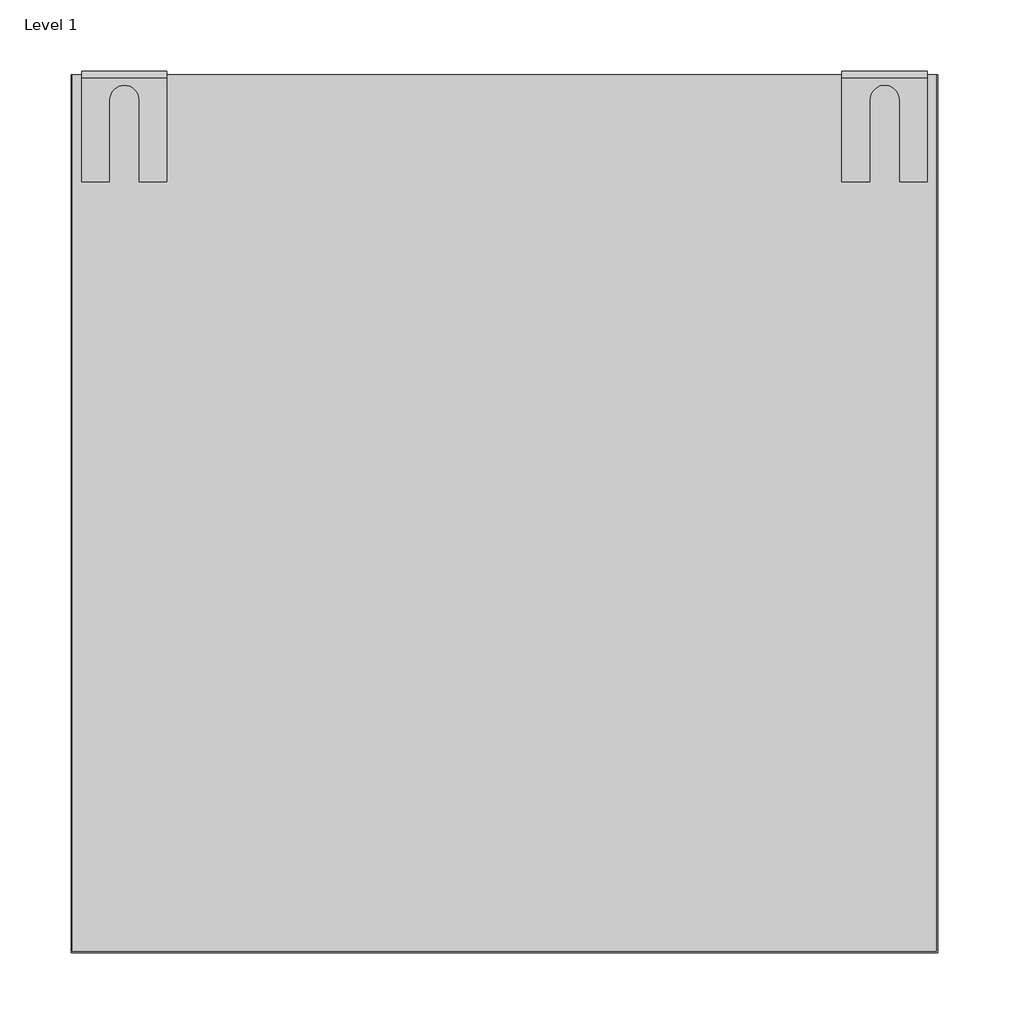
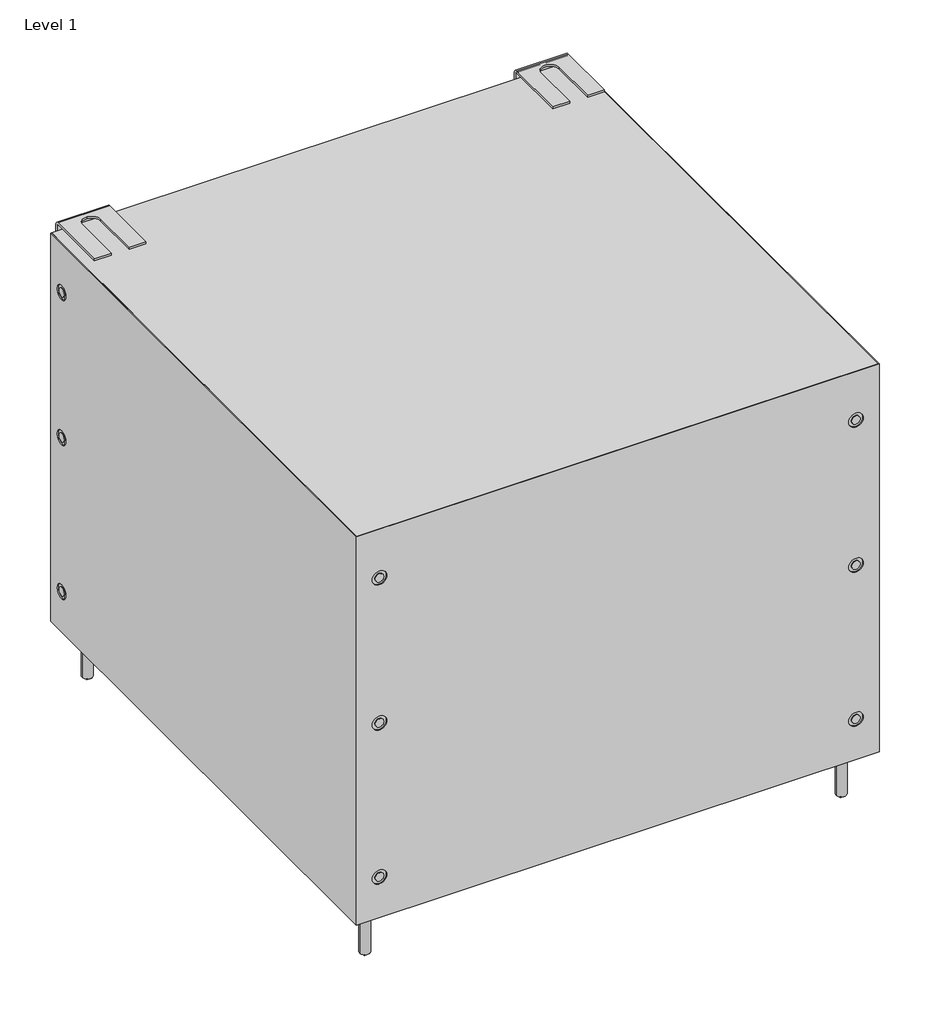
# One storey: 1 proxy.
"""IFC4 building model written with IfcOpenShell, lengths in millimetres."""

from ifc_helpers import new_model, si_unit, origin, place, context, project, spatial, transform, mapped, element, save
from components import specialty_equipment_1de81694

model = new_model("IFC4")

# Units and contexts
model_context = context("Model", 3, world=origin())
ifc_project = project(units=[si_unit("LENGTHUNIT", "METRE", prefix="MILLI")], contexts=[model_context])

# Site, building, storey
site = spatial("IfcSite", under=ifc_project)
building = spatial("IfcBuilding", under=site)
storey = spatial("IfcBuildingStorey", under=building, Name="Level 1", Elevation=0.0)

# Proxy
placement = place(None, origin())
specialty_equipment_shape = specialty_equipment_1de81694(model_context)
element("IfcBuildingElementProxy", 1, Name="11318830_D_APCL011_SST : 59590013_D_11318830_APCL011_SST", ObjectType="11318830_D_APCL011_SST : 59590013_D_11318830_APCL011_SST", at=placement, inside=storey, context=model_context, shape_type="MappedRepresentation", body=[
    mapped(specialty_equipment_shape, transform((0.0, 0.0, 0.0), x_axis=(1.0, 0.0, 0.0), y_axis=(0.0, 1.0, 0.0), z_axis=(0.0, 0.0, 1.0))),
])

save(model, "model.ifc")
